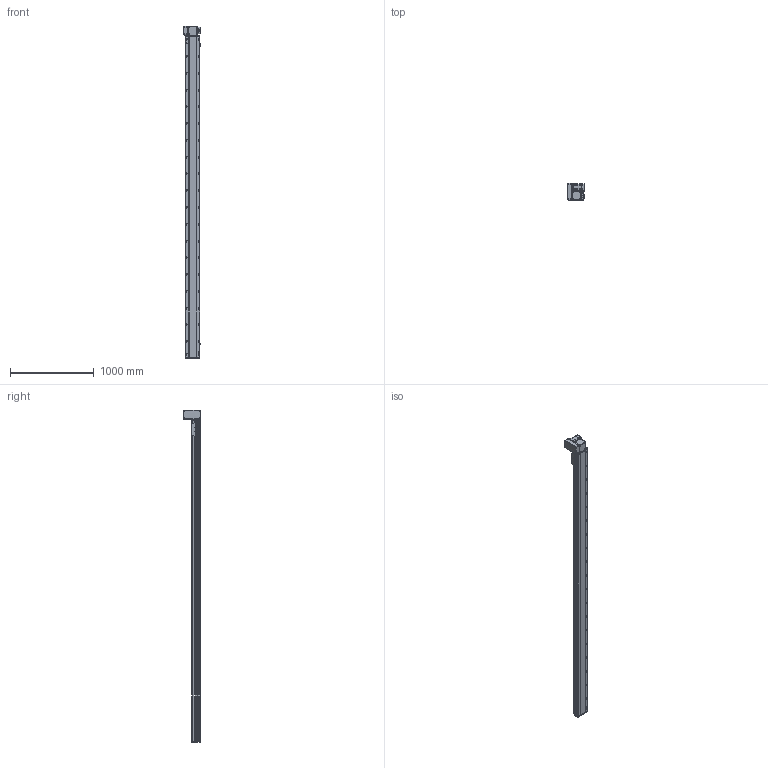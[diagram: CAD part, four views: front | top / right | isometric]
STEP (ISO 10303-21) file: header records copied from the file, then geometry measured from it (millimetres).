
FILE_DESCRIPTION (( 'STEP AP214' ), '1' );
FILE_NAME ('RTB17S-XX-3550-LW-M75-C4.STEP', '2025-12-12T01:23:14', ( '' ), ( '' ), 'SwSTEP 2.0', 'SolidWorks 2018', '' );
FILE_SCHEMA (( 'AUTOMOTIVE_DESIGN' ));
Length unit declared in the file: millimetre
Products named in the file (15): RTH13-BL-012覜茼え俋离^RTB17S-賑釱_RTB17S-XX-XX-LW-M75-C4; RTB17S-L-004-賑釱^RTB17S-賑釱_RTB17S-XX-XX-LW-M75-C4; RTB17S-L-007奻裔^RTB17S-XX-XX-LW-M75-C4; RTB17S-L-001-耜醱啣^RTB17S-XX-XX-LW-M75-C4; RTB22S-GY-005P^RTB17S-LW-々湍釱蚾饜-750W_RTB17S-XX-XX-LW-M75-C4; 750W萇儂^RTB17S-XX-XX-LW-M75-C4; EE672^RTB17S-XX-XX-LW-M75-C4; RTB17S-XX-3550-LW-M75-C4; RTB17S-賑釱^RTB17S-XX-XX-LW-M75-C4; RTB17-R-011菁釱^RTB17S-XX-XX-LW-M75-C4; RTB22S-GY-008-M75--萇儂啣^RTB17S-LW-々湍釱蚾饜-750W_RTB17S-XX-XX-LW-M75-C4; RTB17S-LW-々湍釱蚾饜-750W^RTB17S-XX-XX-LW-M75-C4; RTB22S-GY-017P^RTB17S-LW-々湍釱蚾饜-750W_RTB17S-XX-XX-LW-M75-C4; RTB17S-L-014-T20-P75--々湍釱^RTB17S-LW-々湍釱蚾饜-750W_RTB17S-XX-XX-LW-M75-C4; RTB22S-GY-018P^RTB17S-LW-々湍釱蚾饜-750W_RTB17S-XX-XX-LW-M75-C4
Assembly tree (17 placements, depth 3):
  RTB17S-XX-3550-LW-M75-C4
    RTB17-R-011菁釱^RTB17S-XX-XX-LW-M75-C4
    EE672^RTB17S-XX-XX-LW-M75-C4  x3
    RTB17S-L-001-耜醱啣^RTB17S-XX-XX-LW-M75-C4
    RTB17S-賑釱^RTB17S-XX-XX-LW-M75-C4
      RTB17S-L-004-賑釱^RTB17S-賑釱_RTB17S-XX-XX-LW-M75-C4
      RTH13-BL-012覜茼え俋离^RTB17S-賑釱_RTB17S-XX-XX-LW-M75-C4
    RTB17S-L-007奻裔^RTB17S-XX-XX-LW-M75-C4
    750W萇儂^RTB17S-XX-XX-LW-M75-C4
    RTB17S-LW-々湍釱蚾饜-750W^RTB17S-XX-XX-LW-M75-C4
      RTB17S-L-014-T20-P75--々湍釱^RTB17S-LW-々湍釱蚾饜-750W_RTB17S-XX-XX-LW-M75-C4
      RTB22S-GY-005P^RTB17S-LW-々湍釱蚾饜-750W_RTB17S-XX-XX-LW-M75-C4
      RTB22S-GY-017P^RTB17S-LW-々湍釱蚾饜-750W_RTB17S-XX-XX-LW-M75-C4  x2
      RTB22S-GY-008-M75--萇儂啣^RTB17S-LW-々湍釱蚾饜-750W_RTB17S-XX-XX-LW-M75-C4
      RTB22S-GY-018P^RTB17S-LW-々湍釱蚾饜-750W_RTB17S-XX-XX-LW-M75-C4
Bounding box: 210.4 x 201.5 x 3957.5 mm (x, y, z)
Volume: 28141594.1 mm3; surface area: 5203158.6 mm2
Topology: 17 solids, 17 shells, 2297 faces, 6484 edges, 4202 vertices
Faces by surface type: plane 996, cylinder 885, bspline 294, cone 110, sphere 8, torus 4
Entity records: 68086 total; most frequent: CARTESIAN_POINT 20348, ORIENTED_EDGE 9812, DIRECTION 9032, EDGE_CURVE 4906, AXIS2_PLACEMENT_3D 3222, VERTEX_POINT 3206, VECTOR 2588, LINE 2588
